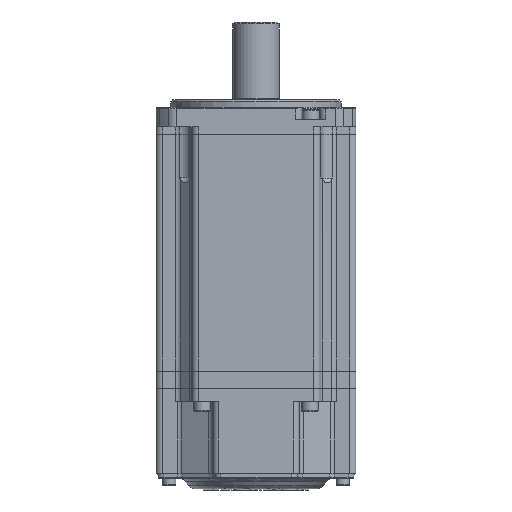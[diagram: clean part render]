
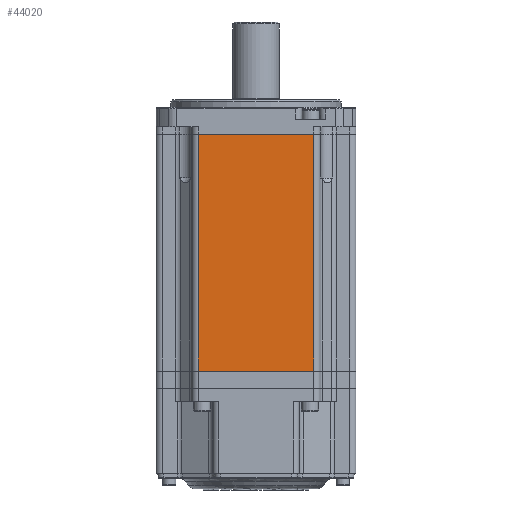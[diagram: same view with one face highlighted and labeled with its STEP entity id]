
A CAD part, front view. The second image highlights one B-rep face of the part: STEP entity #44020.
In plain terms, the highlighted planar face has unit normal (0, -1, 0).
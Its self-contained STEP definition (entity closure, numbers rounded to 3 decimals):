
#346 = ORIENTED_EDGE ( 'NONE', *, *, #28216, .T. ) ;
#781 = VECTOR ( 'NONE', #34077, 1000. ) ;
#4213 = VERTEX_POINT ( 'NONE', #55391 ) ;
#11117 = ORIENTED_EDGE ( 'NONE', *, *, #44891, .T. ) ;
#15795 = VERTEX_POINT ( 'NONE', #42427 ) ;
#16642 = CARTESIAN_POINT ( 'NONE',  ( -23.75, -41., 1000. ) ) ;
#16772 = CARTESIAN_POINT ( 'NONE',  ( 23.75, -41., 97.2 ) ) ;
#17559 = VECTOR ( 'NONE', #47749, 1000. ) ;
#19693 = EDGE_CURVE ( 'NONE', #49455, #4213, #53033, .T. ) ;
#21900 = DIRECTION ( 'NONE',  ( 0., 0., -1. ) ) ;
#22143 = CARTESIAN_POINT ( 'NONE',  ( -198.803, -41., 97.2 ) ) ;
#24343 = FACE_OUTER_BOUND ( 'NONE', #25735, .T. ) ;
#25495 = PLANE ( 'NONE',  #46325 ) ;
#25617 = LINE ( 'NONE', #22143, #17559 ) ;
#25735 = EDGE_LOOP ( 'NONE', ( #45270, #11117, #38589, #346 ) ) ;
#28216 = EDGE_CURVE ( 'NONE', #30076, #4213, #45501, .T. ) ;
#29688 = CARTESIAN_POINT ( 'NONE',  ( -23.75, -41., 0. ) ) ;
#30076 = VERTEX_POINT ( 'NONE', #32354 ) ;
#32354 = CARTESIAN_POINT ( 'NONE',  ( -23.75, -41., 0. ) ) ;
#34023 = VECTOR ( 'NONE', #21900, 1000. ) ;
#34077 = DIRECTION ( 'NONE',  ( 1., 0., 0. ) ) ;
#34219 = DIRECTION ( 'NONE',  ( 0., 1., 0. ) ) ;
#34229 = DIRECTION ( 'NONE',  ( 0., 0., -1. ) ) ;
#35501 = VECTOR ( 'NONE', #34229, 1000. ) ;
#38589 = ORIENTED_EDGE ( 'NONE', *, *, #40676, .T. ) ;
#40676 = EDGE_CURVE ( 'NONE', #15795, #30076, #51775, .T. ) ;
#42427 = CARTESIAN_POINT ( 'NONE',  ( -23.75, -41., 97.2 ) ) ;
#42933 = DIRECTION ( 'NONE',  ( 0., 0., 1. ) ) ;
#44020 = ADVANCED_FACE ( 'NONE', ( #24343 ), #25495, .F. ) ;
#44891 = EDGE_CURVE ( 'NONE', #49455, #15795, #25617, .T. ) ;
#45270 = ORIENTED_EDGE ( 'NONE', *, *, #19693, .F. ) ;
#45501 = LINE ( 'NONE', #29688, #781 ) ;
#46325 = AXIS2_PLACEMENT_3D ( 'NONE', #47108, #34219, #42933 ) ;
#47108 = CARTESIAN_POINT ( 'NONE',  ( -23.75, -41., 1000. ) ) ;
#47749 = DIRECTION ( 'NONE',  ( -1., 0., 0. ) ) ;
#48261 = CARTESIAN_POINT ( 'NONE',  ( 23.75, -41., 1000. ) ) ;
#49455 = VERTEX_POINT ( 'NONE', #16772 ) ;
#51775 = LINE ( 'NONE', #16642, #35501 ) ;
#53033 = LINE ( 'NONE', #48261, #34023 ) ;
#55391 = CARTESIAN_POINT ( 'NONE',  ( 23.75, -41., 0. ) ) ;
